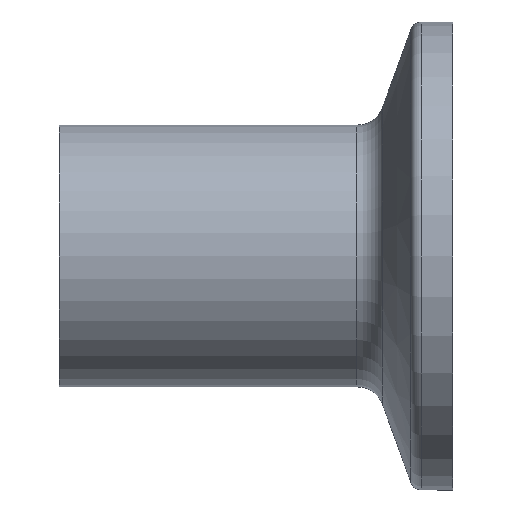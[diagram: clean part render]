
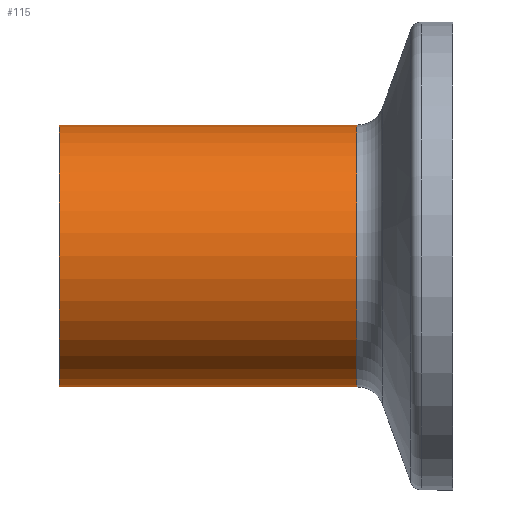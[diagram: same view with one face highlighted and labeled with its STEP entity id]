
A CAD part, left-side view. The second image highlights one B-rep face of the part: STEP entity #115.
In plain terms, the highlighted cylindrical face has radius 9.5 mm (diameter 19 mm), a full revolution.
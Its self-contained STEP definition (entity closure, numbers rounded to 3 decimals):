
#73=CARTESIAN_POINT('',(9.5,28.6,0.0));
#74=VERTEX_POINT('',#73);
#75=CARTESIAN_POINT('',(0.0,28.6,0.0));
#76=DIRECTION('',(0.0,-1.0,0.0));
#77=DIRECTION('',(1.0,0.0,0.0));
#78=AXIS2_PLACEMENT_3D('',#75,#76,#77);
#79=CIRCLE('',#78,9.5);
#80=EDGE_CURVE('',#74,#74,#79,.T.);
#96=CARTESIAN_POINT('',(0.0,17.79,0.0));
#97=DIRECTION('',(0.0,-1.0,0.0));
#98=DIRECTION('',(1.0,0.0,0.0));
#99=AXIS2_PLACEMENT_3D('',#96,#97,#98);
#100=CYLINDRICAL_SURFACE('',#99,9.5);
#101=CARTESIAN_POINT('',(9.5,6.98,0.0));
#102=VERTEX_POINT('',#101);
#103=CARTESIAN_POINT('',(0.0,6.98,0.0));
#104=DIRECTION('',(0.0,-1.0,0.0));
#105=DIRECTION('',(1.0,0.0,0.0));
#106=AXIS2_PLACEMENT_3D('',#103,#104,#105);
#107=CIRCLE('',#106,9.5);
#108=EDGE_CURVE('',#102,#102,#107,.T.);
#109=ORIENTED_EDGE('',*,*,#108,.F.);
#110=EDGE_LOOP('',(#109));
#111=FACE_OUTER_BOUND('',#110,.T.);
#112=ORIENTED_EDGE('',*,*,#80,.T.);
#113=EDGE_LOOP('',(#112));
#114=FACE_BOUND('',#113,.T.);
#115=ADVANCED_FACE('',(#111,#114),#100,.T.);
